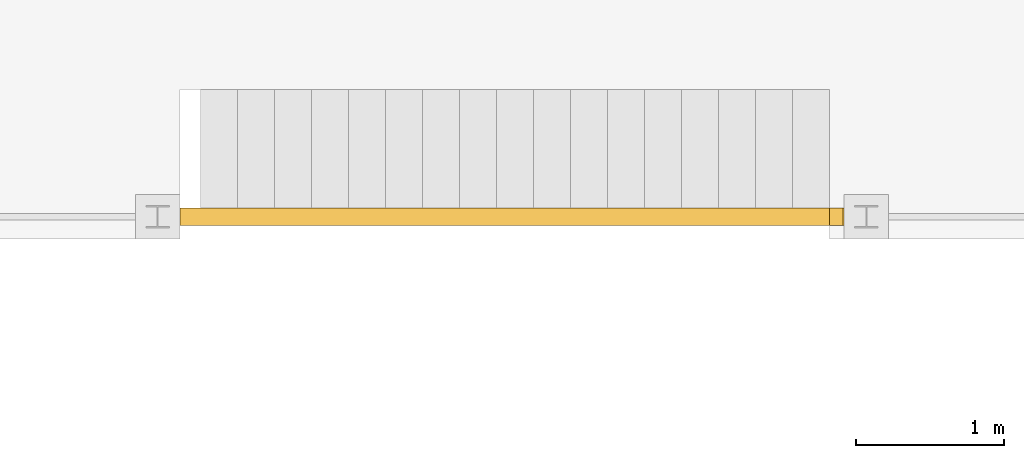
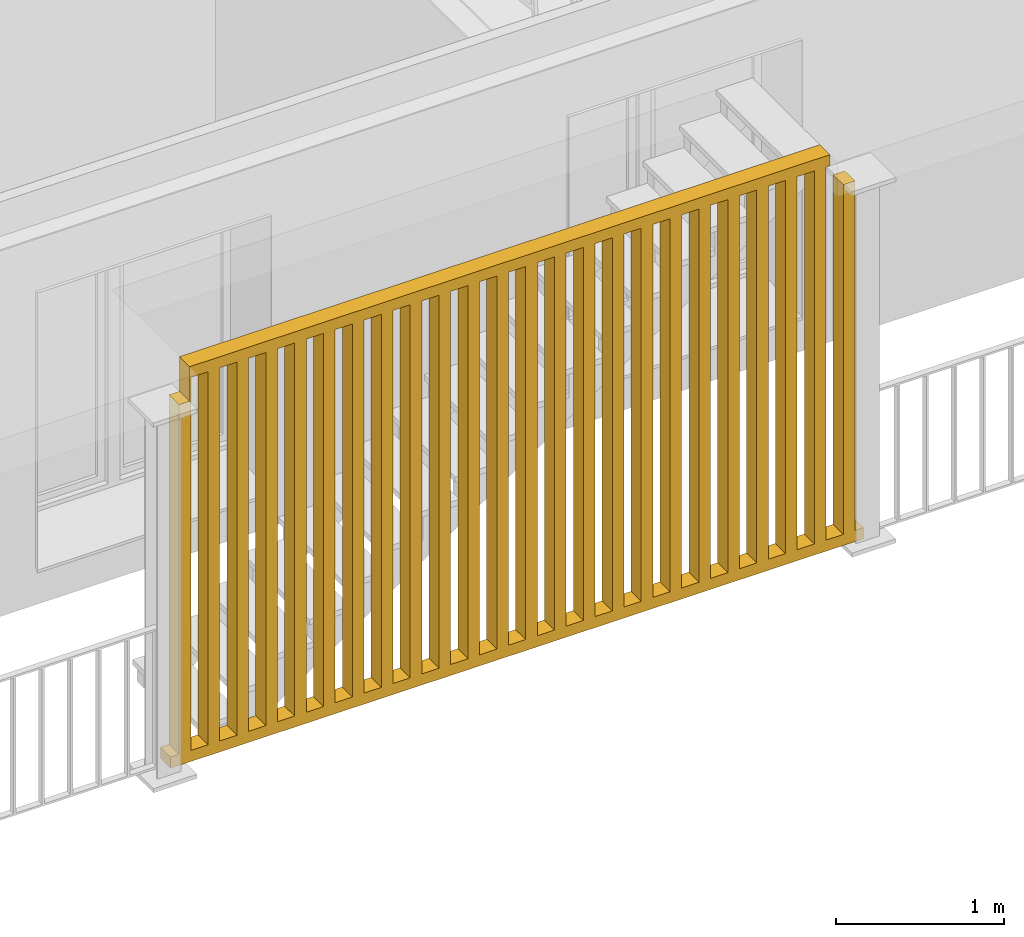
# One storey, part 21 of 34: 1 railing.
"""IFC4 building model written with IfcOpenShell, lengths in millimetres."""

from ifc_helpers import new_model, entity, si_unit, converted_unit, derived_unit, direction, frame, origin_with_axes, place, context, subcontext, project, spatial, polygons, material, constituent, constituent_set, type_object, element, save


model = new_model("IFC4")

# Units and contexts
model_context = context("Model", 3, precision=0.01, world=origin_with_axes(), true_north=direction((0.0, 1.0)))
body_context = subcontext(model_context, "Body", "Model", "MODEL_VIEW")
ifc_project = project(units=[si_unit("LENGTHUNIT", "METRE", prefix="MILLI"), si_unit("AREAUNIT", "SQUARE_METRE"), si_unit("VOLUMEUNIT", "CUBIC_METRE"), converted_unit("PLANEANGLEUNIT", "DEGREE", entity("IfcPlaneAngleMeasure", 0.0174532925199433), si_unit("PLANEANGLEUNIT", "RADIAN"), dimensions=[0, 0, 0, 0, 0, 0, 0]), converted_unit("TIMEUNIT", "Year", entity("IfcTimeMeasure", 31557600.0), si_unit("TIMEUNIT", "SECOND"), dimensions=[0, 0, 1, 0, 0, 0, 0]), si_unit("MASSUNIT", "GRAM", prefix="KILO"), si_unit("THERMODYNAMICTEMPERATUREUNIT", "DEGREE_CELSIUS"), si_unit("LUMINOUSINTENSITYUNIT", "LUMEN"), si_unit("ENERGYUNIT", "JOULE", prefix="MEGA"), derived_unit("THERMALCONDUCTANCEUNIT", [(si_unit("POWERUNIT", "WATT"), 1), (si_unit("LENGTHUNIT", "METRE"), -1), (si_unit("THERMODYNAMICTEMPERATUREUNIT", "KELVIN"), -1)]), derived_unit("SPECIFICHEATCAPACITYUNIT", [(si_unit("ENERGYUNIT", "JOULE"), 1), (si_unit("MASSUNIT", "GRAM", prefix="KILO"), -1), (si_unit("THERMODYNAMICTEMPERATUREUNIT", "KELVIN"), -1)]), derived_unit("MASSDENSITYUNIT", [(si_unit("MASSUNIT", "GRAM", prefix="KILO"), 1), (si_unit("VOLUMEUNIT", "CUBIC_METRE"), -1)])], contexts=[model_context])

# Site, building, storey
site_placement = place(None, origin_with_axes())
site = spatial("IfcSite", under=ifc_project, at=site_placement, Name="Gelände", CompositionType="ELEMENT")
building_placement = place(site_placement, origin_with_axes())
building = spatial("IfcBuilding", under=site, at=building_placement, Name="Gebäude", CompositionType="ELEMENT")
storey_placement = place(building_placement, frame((0.0, 0.0, 5799.999999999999), z_axis=(0.0, 0.0, 1.0), x_axis=(1.0, 0.0, 0.0)))
storey = spatial("IfcBuildingStorey", under=building, at=storey_placement, Name="2.OG", CompositionType="ELEMENT", Elevation=5800.0)

# Railing
ifc_material = material(Name="Vollholzwerkstoff")
ifc_constituent_1 = constituent(ifc_material, Name="Vollholzwerkstoff 1")
ifc_constituent_2 = constituent(ifc_material, Name="Vollholzwerkstoff 2")
ifc_constituent_3 = constituent(ifc_material, Name="Vollholzwerkstoff 3")
ifc_constituent_4 = constituent(ifc_material, Name="Vollholzwerkstoff 4")
ifc_constituent_5 = constituent(ifc_material, Name="Vollholzwerkstoff 5")
ifc_constituent_6 = constituent(ifc_material, Name="Vollholzwerkstoff 6")
ifc_constituent_7 = constituent(ifc_material, Name="Vollholzwerkstoff 7")
ifc_constituent_8 = constituent(ifc_material, Name="Vollholzwerkstoff 8")
ifc_constituent_9 = constituent(ifc_material, Name="Vollholzwerkstoff 9")
ifc_constituent_10 = constituent(ifc_material, Name="Vollholzwerkstoff 10")
ifc_constituent_11 = constituent(ifc_material, Name="Vollholzwerkstoff 11")
ifc_constituent_12 = constituent(ifc_material, Name="Vollholzwerkstoff 12")
ifc_constituent_13 = constituent(ifc_material, Name="Vollholzwerkstoff 13")
ifc_constituent_14 = constituent(ifc_material, Name="Vollholzwerkstoff 14")
ifc_constituent_15 = constituent(ifc_material, Name="Vollholzwerkstoff 15")
ifc_constituent_16 = constituent(ifc_material, Name="Vollholzwerkstoff 16")
ifc_constituent_17 = constituent(ifc_material, Name="Vollholzwerkstoff 17")
ifc_constituent_18 = constituent(ifc_material, Name="Vollholzwerkstoff 18")
ifc_constituent_19 = constituent(ifc_material, Name="Vollholzwerkstoff 19")
ifc_constituent_20 = constituent(ifc_material, Name="Vollholzwerkstoff 20")
ifc_constituent_21 = constituent(ifc_material, Name="Vollholzwerkstoff 21")
ifc_constituent_22 = constituent(ifc_material, Name="Vollholzwerkstoff 22")
ifc_constituent_23 = constituent(ifc_material, Name="Vollholzwerkstoff 23")
ifc_constituent_24 = constituent(ifc_material, Name="Vollholzwerkstoff 24")
ifc_constituent_25 = constituent(ifc_material, Name="Vollholzwerkstoff 25")
ifc_constituent_26 = constituent(ifc_material, Name="Vollholzwerkstoff 26")
ifc_constituent_set = constituent_set(constituents=[ifc_constituent_1, ifc_constituent_2, ifc_constituent_3, ifc_constituent_4, ifc_constituent_5, ifc_constituent_6, ifc_constituent_7, ifc_constituent_8, ifc_constituent_9, ifc_constituent_10, ifc_constituent_11, ifc_constituent_12, ifc_constituent_13, ifc_constituent_14, ifc_constituent_15, ifc_constituent_16, ifc_constituent_17, ifc_constituent_18, ifc_constituent_19, ifc_constituent_20, ifc_constituent_21, ifc_constituent_22, ifc_constituent_23, ifc_constituent_24, ifc_constituent_25, ifc_constituent_26])
railing_type = type_object("IfcRailingType", Name="Geländerart", PredefinedType="NOTDEFINED")
railing_placement = place(storey_placement, frame((996.5363564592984, 21097.59674077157, 74.99999999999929), z_axis=(0.0, 0.0, 1.0), x_axis=(1.0, 0.0, 0.0)))
element("IfcRailing", 1, at=railing_placement, inside=storey, type_object=railing_type, material=ifc_constituent_set, Name="Geländer-001", PredefinedType="NOTDEFINED", context=body_context, shape_type="Tessellation", body=[
    polygons([(4659.859462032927, 59.99999999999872, 2824.999999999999), (4659.859462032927, 59.99999999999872, 2744.999999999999), (269.0594251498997, 59.99999999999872, 2744.999999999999), (269.0594251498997, 59.99999999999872, 2824.999999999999), (4659.859462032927, -59.99999999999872, 2824.999999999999), (4659.859462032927, -59.99999999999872, 2744.999999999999), (269.0594251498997, -59.99999999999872, 2744.999999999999), (269.0594251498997, -59.99999999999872, 2824.999999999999)], [[[1, 2, 3, 4]], [[2, 1, 5, 6]], [[2, 6, 7, 3]], [[8, 4, 3, 7]], [[5, 1, 4, 8]], [[6, 5, 8, 7]]], closed=True),
    polygons([(139.0594620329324, -59.99999999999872, 40.00000000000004), (139.0594620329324, -59.99999999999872, -40.00000000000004), (4889.859462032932, -59.99999999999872, -40.00000000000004), (4889.859462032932, -59.99999999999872, 40.00000000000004), (139.0594620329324, 59.99999999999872, 40.00000000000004), (139.0594620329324, 59.99999999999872, -40.00000000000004), (4889.859462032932, 59.99999999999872, -40.00000000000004), (4889.859462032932, 59.99999999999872, 40.00000000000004)], [[[1, 2, 3, 4]], [[1, 5, 6, 2]], [[2, 6, 7, 3]], [[4, 3, 7, 8]], [[5, 1, 4, 8]], [[6, 5, 8, 7]]], closed=True),
    polygons([(197.0914620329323, 59.99999999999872, 2574.999999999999), (269.0594251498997, 59.99999999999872, 2574.999999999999), (269.0594251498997, 59.99999999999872, 2744.999999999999), (277.0914620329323, 59.99999999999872, 2744.999999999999), (277.0914620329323, 59.99999999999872, 40.00000000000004), (197.0914620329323, 59.99999999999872, 40.00000000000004), (197.0914620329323, -59.99999999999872, 2574.999999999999), (269.0594251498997, -59.99999999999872, 2574.999999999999), (269.0594251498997, -59.99999999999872, 2744.999999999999), (277.0914620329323, -59.99999999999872, 2744.999999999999), (277.0914620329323, -59.99999999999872, 40.00000000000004), (197.0914620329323, -59.99999999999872, 40.00000000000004)], [[[1, 2, 3, 4, 5, 6]], [[2, 1, 7, 8]], [[9, 3, 2, 8]], [[3, 9, 10, 4]], [[10, 11, 5, 4]], [[5, 11, 12, 6]], [[7, 1, 6, 12]], [[8, 7, 12, 11, 10, 9]]], closed=True),
    polygons([(475.1234620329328, -59.99999999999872, 2744.999999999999), (475.1234620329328, -59.99999999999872, 40.00000000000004), (475.1234620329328, 59.99999999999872, 40.00000000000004), (475.1234620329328, 59.99999999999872, 2744.999999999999), (395.1234620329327, -59.99999999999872, 2744.999999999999), (395.1234620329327, -59.99999999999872, 40.00000000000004), (395.1234620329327, 59.99999999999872, 40.00000000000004), (395.1234620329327, 59.99999999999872, 2744.999999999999)], [[[1, 2, 3, 4]], [[5, 6, 2, 1]], [[3, 2, 6, 7]], [[4, 3, 7, 8]], [[5, 1, 4, 8]], [[8, 7, 6, 5]]], closed=True),
    polygons([(673.1554620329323, -59.99999999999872, 2744.999999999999), (673.1554620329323, -59.99999999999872, 40.00000000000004), (673.1554620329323, 59.99999999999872, 40.00000000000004), (673.1554620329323, 59.99999999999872, 2744.999999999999), (593.1554620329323, -59.99999999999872, 2744.999999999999), (593.1554620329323, -59.99999999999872, 40.00000000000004), (593.1554620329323, 59.99999999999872, 40.00000000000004), (593.1554620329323, 59.99999999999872, 2744.999999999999)], [[[1, 2, 3, 4]], [[5, 6, 2, 1]], [[3, 2, 6, 7]], [[4, 3, 7, 8]], [[5, 1, 4, 8]], [[8, 7, 6, 5]]], closed=True),
    polygons([(871.1874620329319, -59.99999999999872, 2744.999999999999), (871.1874620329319, -59.99999999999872, 40.00000000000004), (871.1874620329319, 59.99999999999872, 40.00000000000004), (871.1874620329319, 59.99999999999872, 2744.999999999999), (791.1874620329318, -59.99999999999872, 2744.999999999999), (791.1874620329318, -59.99999999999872, 40.00000000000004), (791.1874620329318, 59.99999999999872, 40.00000000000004), (791.1874620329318, 59.99999999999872, 2744.999999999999)], [[[1, 2, 3, 4]], [[5, 6, 2, 1]], [[3, 2, 6, 7]], [[4, 3, 7, 8]], [[5, 1, 4, 8]], [[8, 7, 6, 5]]], closed=True),
    polygons([(1069.219462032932, -59.99999999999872, 2744.999999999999), (1069.219462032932, -59.99999999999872, 40.00000000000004), (1069.219462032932, 59.99999999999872, 40.00000000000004), (1069.219462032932, 59.99999999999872, 2744.999999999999), (989.2194620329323, -59.99999999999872, 2744.999999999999), (989.2194620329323, -59.99999999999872, 40.00000000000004), (989.2194620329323, 59.99999999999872, 40.00000000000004), (989.2194620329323, 59.99999999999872, 2744.999999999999)], [[[1, 2, 3, 4]], [[5, 6, 2, 1]], [[3, 2, 6, 7]], [[4, 3, 7, 8]], [[5, 1, 4, 8]], [[8, 7, 6, 5]]], closed=True),
    polygons([(1267.251462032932, -59.99999999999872, 2744.999999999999), (1267.251462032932, -59.99999999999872, 40.00000000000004), (1267.251462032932, 59.99999999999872, 40.00000000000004), (1267.251462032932, 59.99999999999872, 2744.999999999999), (1187.251462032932, -59.99999999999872, 2744.999999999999), (1187.251462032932, -59.99999999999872, 40.00000000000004), (1187.251462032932, 59.99999999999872, 40.00000000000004), (1187.251462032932, 59.99999999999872, 2744.999999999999)], [[[1, 2, 3, 4]], [[5, 6, 2, 1]], [[3, 2, 6, 7]], [[4, 3, 7, 8]], [[5, 1, 4, 8]], [[8, 7, 6, 5]]], closed=True),
    polygons([(1465.283462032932, -59.99999999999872, 2744.999999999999), (1465.283462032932, -59.99999999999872, 40.00000000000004), (1465.283462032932, 59.99999999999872, 40.00000000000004), (1465.283462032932, 59.99999999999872, 2744.999999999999), (1385.283462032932, -59.99999999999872, 2744.999999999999), (1385.283462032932, -59.99999999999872, 40.00000000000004), (1385.283462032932, 59.99999999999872, 40.00000000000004), (1385.283462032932, 59.99999999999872, 2744.999999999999)], [[[1, 2, 3, 4]], [[5, 6, 2, 1]], [[3, 2, 6, 7]], [[4, 3, 7, 8]], [[5, 1, 4, 8]], [[8, 7, 6, 5]]], closed=True),
    polygons([(1663.315462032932, -59.99999999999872, 2744.999999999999), (1663.315462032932, -59.99999999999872, 40.00000000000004), (1663.315462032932, 59.99999999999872, 40.00000000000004), (1663.315462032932, 59.99999999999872, 2744.999999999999), (1583.315462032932, -59.99999999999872, 2744.999999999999), (1583.315462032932, -59.99999999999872, 40.00000000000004), (1583.315462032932, 59.99999999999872, 40.00000000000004), (1583.315462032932, 59.99999999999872, 2744.999999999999)], [[[1, 2, 3, 4]], [[5, 6, 2, 1]], [[3, 2, 6, 7]], [[4, 3, 7, 8]], [[5, 1, 4, 8]], [[8, 7, 6, 5]]], closed=True),
    polygons([(1861.347462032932, -59.99999999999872, 2744.999999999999), (1861.347462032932, -59.99999999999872, 40.00000000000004), (1861.347462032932, 59.99999999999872, 40.00000000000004), (1861.347462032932, 59.99999999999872, 2744.999999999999), (1781.347462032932, -59.99999999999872, 2744.999999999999), (1781.347462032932, -59.99999999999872, 40.00000000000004), (1781.347462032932, 59.99999999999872, 40.00000000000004), (1781.347462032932, 59.99999999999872, 2744.999999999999)], [[[1, 2, 3, 4]], [[5, 6, 2, 1]], [[3, 2, 6, 7]], [[4, 3, 7, 8]], [[5, 1, 4, 8]], [[8, 7, 6, 5]]], closed=True),
    polygons([(2059.379462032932, -59.99999999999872, 2744.999999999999), (2059.379462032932, -59.99999999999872, 40.00000000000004), (2059.379462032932, 59.99999999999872, 40.00000000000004), (2059.379462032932, 59.99999999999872, 2744.999999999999), (1979.379462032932, -59.99999999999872, 2744.999999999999), (1979.379462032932, -59.99999999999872, 40.00000000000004), (1979.379462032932, 59.99999999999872, 40.00000000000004), (1979.379462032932, 59.99999999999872, 2744.999999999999)], [[[1, 2, 3, 4]], [[5, 6, 2, 1]], [[3, 2, 6, 7]], [[4, 3, 7, 8]], [[5, 1, 4, 8]], [[8, 7, 6, 5]]], closed=True),
    polygons([(2257.411462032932, -59.99999999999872, 2744.999999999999), (2257.411462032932, -59.99999999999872, 40.00000000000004), (2257.411462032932, 59.99999999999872, 40.00000000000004), (2257.411462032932, 59.99999999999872, 2744.999999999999), (2177.411462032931, -59.99999999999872, 2744.999999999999), (2177.411462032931, -59.99999999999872, 40.00000000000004), (2177.411462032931, 59.99999999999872, 40.00000000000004), (2177.411462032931, 59.99999999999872, 2744.999999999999)], [[[1, 2, 3, 4]], [[5, 6, 2, 1]], [[3, 2, 6, 7]], [[4, 3, 7, 8]], [[5, 1, 4, 8]], [[8, 7, 6, 5]]], closed=True),
    polygons([(2455.443462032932, -59.99999999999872, 2744.999999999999), (2455.443462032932, -59.99999999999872, 40.00000000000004), (2455.443462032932, 59.99999999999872, 40.00000000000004), (2455.443462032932, 59.99999999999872, 2744.999999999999), (2375.443462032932, -59.99999999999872, 2744.999999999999), (2375.443462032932, -59.99999999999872, 40.00000000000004), (2375.443462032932, 59.99999999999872, 40.00000000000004), (2375.443462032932, 59.99999999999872, 2744.999999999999)], [[[1, 2, 3, 4]], [[5, 6, 2, 1]], [[3, 2, 6, 7]], [[4, 3, 7, 8]], [[5, 1, 4, 8]], [[8, 7, 6, 5]]], closed=True),
    polygons([(2653.475462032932, -59.99999999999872, 2744.999999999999), (2653.475462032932, -59.99999999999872, 40.00000000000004), (2653.475462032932, 59.99999999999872, 40.00000000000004), (2653.475462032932, 59.99999999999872, 2744.999999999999), (2573.475462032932, -59.99999999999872, 2744.999999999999), (2573.475462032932, -59.99999999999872, 40.00000000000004), (2573.475462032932, 59.99999999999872, 40.00000000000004), (2573.475462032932, 59.99999999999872, 2744.999999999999)], [[[1, 2, 3, 4]], [[5, 6, 2, 1]], [[3, 2, 6, 7]], [[4, 3, 7, 8]], [[5, 1, 4, 8]], [[8, 7, 6, 5]]], closed=True),
    polygons([(2851.507462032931, -59.99999999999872, 2744.999999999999), (2851.507462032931, -59.99999999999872, 40.00000000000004), (2851.507462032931, 59.99999999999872, 40.00000000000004), (2851.507462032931, 59.99999999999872, 2744.999999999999), (2771.507462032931, -59.99999999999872, 2744.999999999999), (2771.507462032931, -59.99999999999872, 40.00000000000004), (2771.507462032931, 59.99999999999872, 40.00000000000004), (2771.507462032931, 59.99999999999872, 2744.999999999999)], [[[1, 2, 3, 4]], [[5, 6, 2, 1]], [[3, 2, 6, 7]], [[4, 3, 7, 8]], [[5, 1, 4, 8]], [[8, 7, 6, 5]]], closed=True),
    polygons([(3049.539462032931, -59.99999999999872, 2744.999999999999), (3049.539462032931, -59.99999999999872, 40.00000000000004), (3049.539462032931, 59.99999999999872, 40.00000000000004), (3049.539462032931, 59.99999999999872, 2744.999999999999), (2969.539462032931, -59.99999999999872, 2744.999999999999), (2969.539462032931, -59.99999999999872, 40.00000000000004), (2969.539462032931, 59.99999999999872, 40.00000000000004), (2969.539462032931, 59.99999999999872, 2744.999999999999)], [[[1, 2, 3, 4]], [[5, 6, 2, 1]], [[3, 2, 6, 7]], [[4, 3, 7, 8]], [[5, 1, 4, 8]], [[8, 7, 6, 5]]], closed=True),
    polygons([(3247.571462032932, -59.99999999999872, 2744.999999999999), (3247.571462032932, -59.99999999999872, 40.00000000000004), (3247.571462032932, 59.99999999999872, 40.00000000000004), (3247.571462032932, 59.99999999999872, 2744.999999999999), (3167.571462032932, -59.99999999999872, 2744.999999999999), (3167.571462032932, -59.99999999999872, 40.00000000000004), (3167.571462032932, 59.99999999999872, 40.00000000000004), (3167.571462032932, 59.99999999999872, 2744.999999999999)], [[[1, 2, 3, 4]], [[5, 6, 2, 1]], [[3, 2, 6, 7]], [[4, 3, 7, 8]], [[5, 1, 4, 8]], [[8, 7, 6, 5]]], closed=True),
    polygons([(3445.603462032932, -59.99999999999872, 2744.999999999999), (3445.603462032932, -59.99999999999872, 40.00000000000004), (3445.603462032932, 59.99999999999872, 40.00000000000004), (3445.603462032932, 59.99999999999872, 2744.999999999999), (3365.603462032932, -59.99999999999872, 2744.999999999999), (3365.603462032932, -59.99999999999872, 40.00000000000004), (3365.603462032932, 59.99999999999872, 40.00000000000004), (3365.603462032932, 59.99999999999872, 2744.999999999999)], [[[1, 2, 3, 4]], [[5, 6, 2, 1]], [[3, 2, 6, 7]], [[4, 3, 7, 8]], [[5, 1, 4, 8]], [[8, 7, 6, 5]]], closed=True),
    polygons([(3643.635462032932, -59.99999999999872, 2744.999999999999), (3643.635462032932, -59.99999999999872, 40.00000000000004), (3643.635462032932, 59.99999999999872, 40.00000000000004), (3643.635462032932, 59.99999999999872, 2744.999999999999), (3563.635462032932, -59.99999999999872, 2744.999999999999), (3563.635462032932, -59.99999999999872, 40.00000000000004), (3563.635462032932, 59.99999999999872, 40.00000000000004), (3563.635462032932, 59.99999999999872, 2744.999999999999)], [[[1, 2, 3, 4]], [[5, 6, 2, 1]], [[3, 2, 6, 7]], [[4, 3, 7, 8]], [[5, 1, 4, 8]], [[8, 7, 6, 5]]], closed=True),
    polygons([(3841.667462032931, -59.99999999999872, 2744.999999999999), (3841.667462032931, -59.99999999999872, 40.00000000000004), (3841.667462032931, 59.99999999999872, 40.00000000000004), (3841.667462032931, 59.99999999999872, 2744.999999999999), (3761.667462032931, -59.99999999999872, 2744.999999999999), (3761.667462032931, -59.99999999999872, 40.00000000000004), (3761.667462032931, 59.99999999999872, 40.00000000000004), (3761.667462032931, 59.99999999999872, 2744.999999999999)], [[[1, 2, 3, 4]], [[5, 6, 2, 1]], [[3, 2, 6, 7]], [[4, 3, 7, 8]], [[5, 1, 4, 8]], [[8, 7, 6, 5]]], closed=True),
    polygons([(4039.699462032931, -59.99999999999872, 2744.999999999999), (4039.699462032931, -59.99999999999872, 40.00000000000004), (4039.699462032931, 59.99999999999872, 40.00000000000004), (4039.699462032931, 59.99999999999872, 2744.999999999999), (3959.699462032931, -59.99999999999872, 2744.999999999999), (3959.699462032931, -59.99999999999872, 40.00000000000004), (3959.699462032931, 59.99999999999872, 40.00000000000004), (3959.699462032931, 59.99999999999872, 2744.999999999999)], [[[1, 2, 3, 4]], [[5, 6, 2, 1]], [[3, 2, 6, 7]], [[4, 3, 7, 8]], [[5, 1, 4, 8]], [[8, 7, 6, 5]]], closed=True),
    polygons([(4237.731462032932, -59.99999999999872, 2744.999999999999), (4237.731462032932, -59.99999999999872, 40.00000000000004), (4237.731462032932, 59.99999999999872, 40.00000000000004), (4237.731462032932, 59.99999999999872, 2744.999999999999), (4157.731462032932, -59.99999999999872, 2744.999999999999), (4157.731462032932, -59.99999999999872, 40.00000000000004), (4157.731462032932, 59.99999999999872, 40.00000000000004), (4157.731462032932, 59.99999999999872, 2744.999999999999)], [[[1, 2, 3, 4]], [[5, 6, 2, 1]], [[3, 2, 6, 7]], [[4, 3, 7, 8]], [[5, 1, 4, 8]], [[8, 7, 6, 5]]], closed=True),
    polygons([(4435.763462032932, -59.99999999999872, 2744.999999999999), (4435.763462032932, -59.99999999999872, 40.00000000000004), (4435.763462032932, 59.99999999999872, 40.00000000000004), (4435.763462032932, 59.99999999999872, 2744.999999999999), (4355.763462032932, -59.99999999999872, 2744.999999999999), (4355.763462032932, -59.99999999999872, 40.00000000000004), (4355.763462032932, 59.99999999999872, 40.00000000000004), (4355.763462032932, 59.99999999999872, 2744.999999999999)], [[[1, 2, 3, 4]], [[5, 6, 2, 1]], [[3, 2, 6, 7]], [[4, 3, 7, 8]], [[5, 1, 4, 8]], [[8, 7, 6, 5]]], closed=True),
    polygons([(4633.795462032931, -59.99999999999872, 2744.999999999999), (4633.795462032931, -59.99999999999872, 40.00000000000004), (4633.795462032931, 59.99999999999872, 40.00000000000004), (4633.795462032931, 59.99999999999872, 2744.999999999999), (4553.795462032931, -59.99999999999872, 2744.999999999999), (4553.795462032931, -59.99999999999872, 40.00000000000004), (4553.795462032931, 59.99999999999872, 40.00000000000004), (4553.795462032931, 59.99999999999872, 2744.999999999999)], [[[1, 2, 3, 4]], [[5, 6, 2, 1]], [[3, 2, 6, 7]], [[4, 3, 7, 8]], [[5, 1, 4, 8]], [[8, 7, 6, 5]]], closed=True),
    polygons([(4751.82746203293, 59.99999999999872, 2574.999999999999), (4831.82746203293, 59.99999999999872, 2574.999999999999), (4831.82746203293, 59.99999999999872, 40.00000000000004), (4751.82746203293, 59.99999999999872, 40.00000000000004), (4831.82746203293, -59.99999999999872, 2574.999999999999), (4751.82746203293, -59.99999999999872, 2574.999999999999), (4831.82746203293, -59.99999999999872, 40.00000000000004), (4751.82746203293, -59.99999999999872, 40.00000000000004)], [[[1, 2, 3, 4]], [[5, 2, 1, 6]], [[2, 5, 7, 3]], [[3, 7, 8, 4]], [[6, 1, 4, 8]], [[5, 6, 8, 7]]], closed=True),
])

save(model, "model.ifc")
